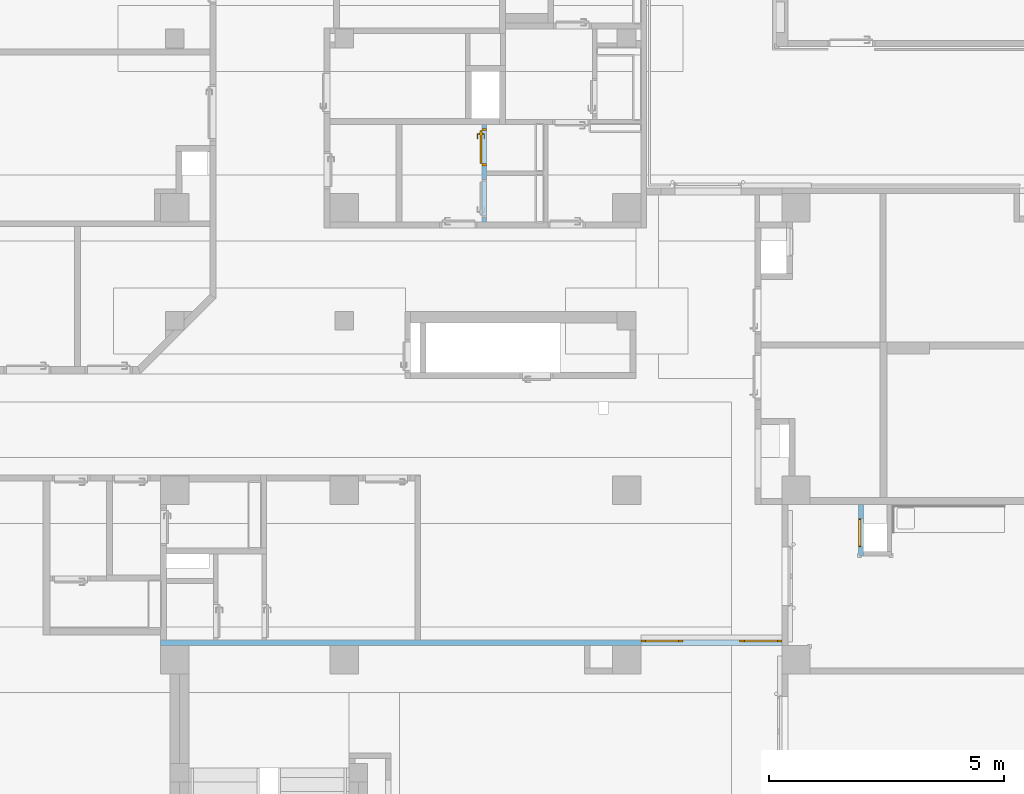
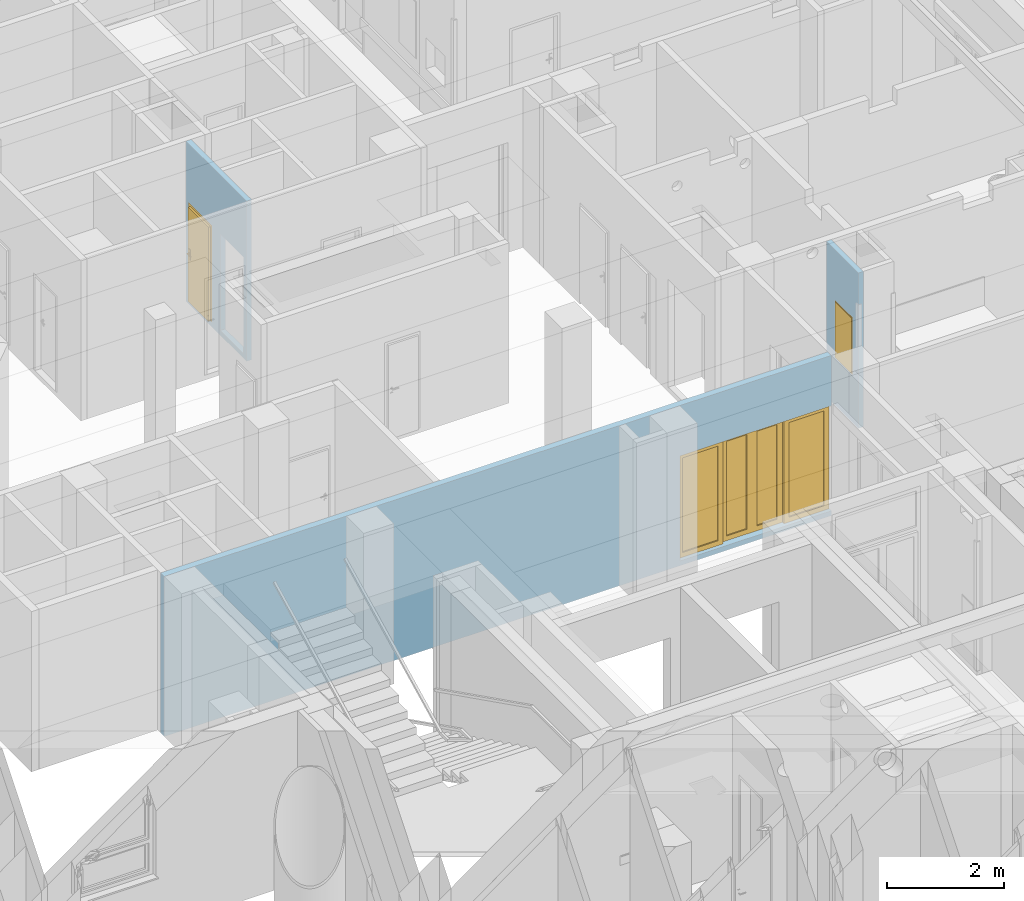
# One storey, part 83 of 140: 2 doors, 1 window, 4 openings, plus 3 elements that do not belong to this part.
"""IFC4 building model written with IfcOpenShell, lengths in metres."""

import ifcopenshell
import ifcopenshell.guid

model = None  # the IFC model being written
_history = None  # IfcOwnerHistory: only IFC2X3 demands one
_inside = {}  # id of a spatial element -> (the spatial element, [elements in it])
_under = {}  # id of a project, library or spatial element -> (it, [spatial elements below it])
_declared = {}  # id of a project -> (the project, [libraries it declares])
_typed = {}  # id of a type object -> (the type object, [elements of that type])
_made_of = {}  # id of a material, layer set ... -> (it, [elements and type objects made of it])


def new_model(schema):
    """Start an empty IFC model of exactly this schema.

    Asked for "IFC4X3", IfcOpenShell would pick the latest addendum, in which some entities
    have other attributes; the version numbers below select the first issue.
    IFC2X3 requires an IfcOwnerHistory on every rooted entity: one is made here for all.
    """
    global model, _history
    if schema == "IFC4X3":
        model = ifcopenshell.file(schema_version=(4, 3, 0, 0))
    else:
        model = ifcopenshell.file(schema=schema)
    _inside.clear()
    _under.clear()
    _declared.clear()
    _typed.clear()
    _made_of.clear()
    _history = None
    if model.schema == "IFC2X3":
        org = make("IfcOrganization", Name="unknown")
        user = make(
            "IfcPersonAndOrganization",
            ThePerson=make("IfcPerson", FamilyName="unknown"),
            TheOrganization=org,
        )
        app = make(
            "IfcApplication",
            ApplicationDeveloper=org,
            Version="unknown",
            ApplicationFullName="unknown",
            ApplicationIdentifier="unknown",
        )
        _history = make(
            "IfcOwnerHistory",
            OwningUser=user,
            OwningApplication=app,
            ChangeAction="ADDED",
            CreationDate=0,
        )
    return model


def make(cls, **values):
    """One entity of the class cls with the attributes given. An attribute that is None is left unset."""
    return model.create_entity(
        cls, **{name: value for name, value in values.items() if value is not None}
    )


def entity(cls, *values):
    """Any entity or typed value of the class cls, its attributes in the order of the schema. None: left unset."""
    e = model.create_entity(cls)
    for i, value in enumerate(values):
        if value is not None:
            e[i] = value
    return e


def rooted(cls, **values):
    """An entity with a GlobalId (a new one), such as an element, a storey or a relation."""
    return make(cls, GlobalId=ifcopenshell.guid.new(), OwnerHistory=_history, **values)


def si_unit(unit_type, name, prefix=None):
    """IfcSIUnit, for example si_unit("LENGTHUNIT", "METRE", prefix="MILLI")."""
    return make("IfcSIUnit", UnitType=unit_type, Prefix=prefix, Name=name)


def converted_unit(unit_type, name, factor, base, dimensions=None, offset=None):
    """IfcConversionBasedUnit, such as the inch: factor (a typed value) times the base unit."""
    return make(
        "IfcConversionBasedUnit"
        if offset is None
        else "IfcConversionBasedUnitWithOffset",
        ConversionOffset=offset,
        Dimensions=None
        if dimensions is None
        else entity("IfcDimensionalExponents", *dimensions),
        UnitType=unit_type,
        Name=name,
        ConversionFactor=make(
            "IfcMeasureWithUnit", ValueComponent=factor, UnitComponent=base
        ),
    )


def derived_unit(unit_type, elements):
    """IfcDerivedUnit: a product of units, each with its exponent."""
    return make(
        "IfcDerivedUnit",
        Elements=[
            make("IfcDerivedUnitElement", Unit=unit, Exponent=power)
            for unit, power in elements
        ],
        UnitType=unit_type,
    )


def assignment(units):
    """IfcUnitAssignment: the units of a project."""
    return None if units is None else make("IfcUnitAssignment", Units=units)


def point(xyz):
    """IfcCartesianPoint."""
    return None if xyz is None else make("IfcCartesianPoint", Coordinates=xyz)


def direction(xyz):
    """IfcDirection."""
    return None if xyz is None else make("IfcDirection", DirectionRatios=xyz)


def frame(location, z_axis=None, x_axis=None):
    """IfcAxis2Placement3D, a coordinate frame: its origin and axes. An axis left out is left unset."""
    return make(
        "IfcAxis2Placement3D",
        Location=point(location),
        Axis=direction(z_axis),
        RefDirection=direction(x_axis),
    )


def frame_2d(location, x_axis=None):
    """IfcAxis2Placement2D, a coordinate frame in the plane: its origin and x axis."""
    return make(
        "IfcAxis2Placement2D", Location=point(location), RefDirection=direction(x_axis)
    )


def origin():
    """The frame at (0, 0, 0) with its axes left unset."""
    return frame((0.0, 0.0, 0.0))


def origin_with_axes():
    """The frame at (0, 0, 0) with the z axis (0, 0, 1) and the x axis (1, 0, 0) written out."""
    return frame((0.0, 0.0, 0.0), z_axis=(0.0, 0.0, 1.0), x_axis=(1.0, 0.0, 0.0))


def place(relative_to, where):
    """IfcLocalPlacement: puts the frame where relative to a parent placement (None: the world)."""
    return make(
        "IfcLocalPlacement", PlacementRelTo=relative_to, RelativePlacement=where
    )


def context(
    kind, dimensions, precision=None, world=None, true_north=None, identifier=None
):
    """IfcGeometricRepresentationContext, for example the 3D "Model" context."""
    return make(
        "IfcGeometricRepresentationContext",
        ContextIdentifier=identifier,
        ContextType=kind,
        CoordinateSpaceDimension=dimensions,
        Precision=precision,
        WorldCoordinateSystem=world,
        TrueNorth=true_north,
    )


def subcontext(parent, identifier, kind, view, scale=None):
    """IfcGeometricRepresentationSubContext, for example "Body" below "Model"."""
    return make(
        "IfcGeometricRepresentationSubContext",
        ContextIdentifier=identifier,
        ContextType=kind,
        ParentContext=parent,
        TargetScale=scale,
        TargetView=view,
    )


def project(units=None, contexts=None):
    """IfcProject with its units and contexts."""
    return rooted(
        "IfcProject",
        Name="project",
        RepresentationContexts=contexts,
        UnitsInContext=assignment(units),
    )


def spatial(cls, under=None, at=None, **own):
    """A site, building, storey or space (cls), placed at a placement, below another one or the project."""
    s = rooted(cls, ObjectPlacement=at, **own)
    if under is not None:
        _under.setdefault(under.id(), (under, []))[1].append(s)
    return s


def polyline(points):
    """IfcPolyline through the points."""
    return make("IfcPolyline", Points=[point(p) for p in points])


def profile(cls, at=None, kind="AREA", **sizes):
    """A parametric profile (cls). Its sizes go by their IFC names, for example OverallWidth=200.0."""
    return make(cls, ProfileType=kind, Position=at, **sizes)


def rectangle(**sizes):
    """IfcRectangleProfileDef."""
    return profile("IfcRectangleProfileDef", **sizes)


def outline(outer, holes=None, kind="AREA"):
    """IfcArbitraryClosedProfileDef: a profile drawn as a closed curve; with holes, ...WithVoids."""
    if holes is None:
        return make("IfcArbitraryClosedProfileDef", ProfileType=kind, OuterCurve=outer)
    return make(
        "IfcArbitraryProfileDefWithVoids",
        ProfileType=kind,
        OuterCurve=outer,
        InnerCurves=holes,
    )


def extrude(swept, where, along, depth):
    """IfcExtrudedAreaSolid: the profile swept, set in the frame where, extruded along a direction by depth."""
    return make(
        "IfcExtrudedAreaSolid",
        SweptArea=swept,
        Position=where,
        ExtrudedDirection=direction(along),
        Depth=depth,
    )


def faces_of(points, faces, orient=None, outer=None):
    """IfcFace entities. A face is a list of loops; a loop is a list of indices into points, from 0.

    orient and outer hold one flag for each loop. By default every Orientation is true, the
    first loop of a face is its IfcFaceOuterBound and the others are IfcFaceBound.
    """
    made = []
    for i, loops in enumerate(faces):
        bounds = []
        for j, loop in enumerate(loops):
            is_outer = j == 0 if outer is None else outer[i][j]
            bounds.append(
                make(
                    "IfcFaceOuterBound" if is_outer else "IfcFaceBound",
                    Bound=make("IfcPolyLoop", Polygon=[points[k] for k in loop]),
                    Orientation=True if orient is None else orient[i][j],
                )
            )
        made.append(make("IfcFace", Bounds=bounds))
    return made


def closed_shell(faces, orient=None, outer=None):
    """The faces of one IfcClosedShell. faceted_brep and surface_model build it on their shared points."""
    return ("IfcClosedShell", faces, orient, outer)


def open_shell(faces, orient=None, outer=None):
    """The faces of one IfcOpenShell. surface_model builds it on its shared points."""
    return ("IfcOpenShell", faces, orient, outer)


def faceted_brep(points, faces, orient=None, outer=None, voids=None):
    """IfcFacetedBrep: a solid bounded by flat faces; with voids (closed shells), ...WithVoids."""
    shared = [point(p) for p in points]
    hull = make("IfcClosedShell", CfsFaces=faces_of(shared, faces, orient, outer))
    if voids is None:
        return make("IfcFacetedBrep", Outer=hull)
    return make(
        "IfcFacetedBrepWithVoids",
        Outer=hull,
        Voids=[
            make(cls, CfsFaces=faces_of(shared, fs, o, b)) for cls, fs, o, b in voids
        ],
    )


def surface_model(cls, points, shells):
    """IfcFaceBasedSurfaceModel or IfcShellBasedSurfaceModel (cls): surfaces that need not close."""
    shared = [point(p) for p in points]
    made = [make(c, CfsFaces=faces_of(shared, fs, o, b)) for c, fs, o, b in shells]
    if cls == "IfcFaceBasedSurfaceModel":
        return make(cls, FbsmFaces=made)
    return make(cls, SbsmBoundary=made)


def shape(context_of_items, identifier, shape_type, items):
    """IfcShapeRepresentation: the items that make up one representation, for example the "Body"."""
    return make(
        "IfcShapeRepresentation",
        ContextOfItems=context_of_items,
        RepresentationIdentifier=identifier,
        RepresentationType=shape_type,
        Items=items,
    )


def source(mapping_origin, context_of_items, identifier, shape_type, items):
    """IfcRepresentationMap: a shape defined once, which mapped items show again and again."""
    return make(
        "IfcRepresentationMap",
        MappingOrigin=mapping_origin,
        MappedRepresentation=shape(context_of_items, identifier, shape_type, items),
    )


def transform(
    local_origin,
    x_axis=None,
    y_axis=None,
    z_axis=None,
    scale=None,
    scale2=None,
    scale3=None,
    uniform=True,
):
    """IfcCartesianTransformationOperator3D, or its non-uniform kind. x_axis, y_axis, z_axis: its Axis1, 2, 3."""
    if uniform:
        return make(
            "IfcCartesianTransformationOperator3D",
            Axis1=direction(x_axis),
            Axis2=direction(y_axis),
            LocalOrigin=point(local_origin),
            Scale=scale,
            Axis3=direction(z_axis),
        )
    return make(
        "IfcCartesianTransformationOperator3DnonUniform",
        Axis1=direction(x_axis),
        Axis2=direction(y_axis),
        LocalOrigin=point(local_origin),
        Scale=scale,
        Axis3=direction(z_axis),
        Scale2=scale2,
        Scale3=scale3,
    )


def mapped(mapping_source, mapping_target):
    """IfcMappedItem: shows the shape of a source again, moved by a transform."""
    return make(
        "IfcMappedItem", MappingSource=mapping_source, MappingTarget=mapping_target
    )


def material(Name=None, Category=None):
    """IfcMaterial."""
    return make("IfcMaterial", Name=Name, Category=Category)


def layer(
    of_material, thickness, ventilated=None, Name=None, Category=None, Priority=None
):
    """IfcMaterialLayer: one layer of a wall or slab, of a material (None: an air gap)."""
    return make(
        "IfcMaterialLayer",
        Material=of_material,
        LayerThickness=thickness,
        IsVentilated=ventilated,
        Name=Name,
        Category=Category,
        Priority=Priority,
    )


def layer_set(layers, Name=None):
    """IfcMaterialLayerSet."""
    return make("IfcMaterialLayerSet", MaterialLayers=layers, LayerSetName=Name)


def layer_usage(for_layer_set, set_direction, sense, offset, extent=None):
    """IfcMaterialLayerSetUsage: how a layer set lies in its element."""
    return make(
        "IfcMaterialLayerSetUsage",
        ForLayerSet=for_layer_set,
        LayerSetDirection=set_direction,
        DirectionSense=sense,
        OffsetFromReferenceLine=offset,
        ReferenceExtent=extent,
    )


def made_of(thing, what):
    """Note that an element or type object is made of a material, layer set ...; save() writes the relation."""
    if what is not None:
        _made_of.setdefault(what.id(), (what, []))[1].append(thing)
    return thing


def type_object(cls, material=None, **own):
    """A type object (cls), such as IfcWallType, which elements share."""
    return made_of(rooted(cls, **own), material)


def element(
    cls,
    number,
    at=None,
    inside=None,
    cuts=None,
    type_object=None,
    material=None,
    context=None,
    identifier="Body",
    shape_type=None,
    held_by="IfcProductDefinitionShape",
    body=None,
    shapes=None,
    **own,
):
    """One element of the class cls, such as IfcWall. Its Tag is "e" and its number.

    at: its placement. inside: the storey or other place that contains it. cuts: it is an
    opening in that element (IfcRelVoidsElement). A single representation is given by context,
    identifier, shape_type and body (its items); several are given by shapes. held_by: the class
    of the entity that holds the representations. save() writes the other relations.
    """
    e = rooted(cls, Tag="e%d" % number, ObjectPlacement=at, **own)
    if body is not None:
        shapes = [shape(context, identifier, shape_type, body)]
    if shapes is not None:
        e.Representation = make(held_by, Representations=shapes)
    if inside is not None:
        _inside.setdefault(inside.id(), (inside, []))[1].append(e)
    if cuts is not None:
        rooted(
            "IfcRelVoidsElement", RelatingBuildingElement=cuts, RelatedOpeningElement=e
        )
    if type_object is not None:
        _typed.setdefault(type_object.id(), (type_object, []))[1].append(e)
    return made_of(e, material)


def fill(opening, filler):
    """IfcRelFillsElement: the door or window that sits in an opening."""
    return rooted(
        "IfcRelFillsElement",
        RelatingOpeningElement=opening,
        RelatedBuildingElement=filler,
    )


def aggregate(whole, parts):
    """IfcRelAggregates: a whole, such as a stair, and the parts it consists of."""
    return rooted("IfcRelAggregates", RelatingObject=whole, RelatedObjects=parts)


def save(model, path):
    """Write the relations noted so far, then the file.

    IfcRelAggregates (storeys below a building ...), IfcRelContainedInSpatialStructure (elements
    in a storey), IfcRelDefinesByType, IfcRelAssociatesMaterial and IfcRelDeclares: one each for
    every whole, place, type object, material and project.
    """
    for whole, parts in _under.values():
        aggregate(whole, parts)
    for where, things in _inside.values():
        rooted(
            "IfcRelContainedInSpatialStructure",
            RelatedElements=things,
            RelatingStructure=where,
        )
    for kind, things in _typed.values():
        rooted("IfcRelDefinesByType", RelatedObjects=things, RelatingType=kind)
    for what, things in _made_of.values():
        rooted("IfcRelAssociatesMaterial", RelatedObjects=things, RelatingMaterial=what)
    for by, libraries in _declared.values():
        rooted("IfcRelDeclares", RelatingContext=by, RelatedDefinitions=libraries)
    model.write(path)


model = new_model("IFC4")

# Units and contexts
model_context = context("Model", 3, precision=1e-05, world=origin())
body_context = subcontext(model_context, "Body", "Model", "MODEL_VIEW")
ifc_project = project(units=[si_unit("LENGTHUNIT", "METRE"), si_unit("AREAUNIT", "SQUARE_METRE"), si_unit("VOLUMEUNIT", "CUBIC_METRE"), si_unit("MASSUNIT", "GRAM", prefix="KILO"), converted_unit("PLANEANGLEUNIT", "DEGREE", entity("IfcPlaneAngleMeasure", 0.0174532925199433), si_unit("PLANEANGLEUNIT", "RADIAN"), dimensions=[0, 0, 0, 0, 0, 0, 0]), derived_unit("THERMALTRANSMITTANCEUNIT", [(si_unit("POWERUNIT", "WATT"), 1), (si_unit("THERMODYNAMICTEMPERATUREUNIT", "KELVIN"), -1), (si_unit("LENGTHUNIT", "METRE"), -2)]), derived_unit("VOLUMETRICFLOWRATEUNIT", [(si_unit("LENGTHUNIT", "METRE"), 3), (converted_unit("TIMEUNIT", "hour", entity("IfcTimeMeasure", 3600.0), si_unit("TIMEUNIT", "SECOND"), dimensions=[0, 0, 1, 0, 0, 0, 0]), -1), (si_unit("LENGTHUNIT", "METRE"), -1)])], contexts=[model_context])

# Site, building, storey
site_placement = place(None, origin())
site = spatial("IfcSite", under=ifc_project, at=site_placement, Name="3. ASŘ", CompositionType="ELEMENT")
building_placement = place(site_placement, origin())
building = spatial("IfcBuilding", under=site, at=building_placement, Name="Pavilon C", CompositionType="ELEMENT")
storey_placement = place(building_placement, origin())
storey = spatial("IfcBuildingStorey", under=building, at=storey_placement, Name="Půdorys 1.NP", CompositionType="ELEMENT", Elevation=0.0)

# Wall, opening, door
ifc_material_1 = material(Name="ZDIVO Z CDm")
ifc_layer_1 = layer(ifc_material_1, 0.125)
ifc_layer_set_1 = layer_set([ifc_layer_1])
ifc_layer_usage_1 = layer_usage(ifc_layer_set_1, "AXIS2", "POSITIVE", 0.0)
wall_1_placement = place(storey_placement, frame((30.45, 3.9, -0.1)))
wall_1 = element("IfcWall", 1, at=wall_1_placement, inside=storey, material=ifc_layer_usage_1, Name="ZDIVO Z CDm", context=body_context, shape_type="SweptSolid", body=[
    extrude(rectangle(XDim=13.2, YDim=0.125, at=frame_2d((6.6, 0.0625), x_axis=(1.0, 0.0))), origin_with_axes(), (0.0, 0.0, 1.0), 3.35),
])
opening_1_placement = place(wall_1_placement, frame((13.2, 0.125, 0.1), z_axis=(0.0, -1.0, 0.0), x_axis=(0.0, 0.0, 1.0)))
opening_1 = element("IfcOpeningElement", 2, at=opening_1_placement, cuts=wall_1, Name="Dveřní otvor", ObjectType="Opening", context=body_context, shape_type="SweptSolid", body=[
    extrude(outline(polyline([(0.0, 3.0), (2.2, 3.0), (2.2, 0.0), (0.0, 0.0), (0.0, 3.0)])), origin_with_axes(), (0.0, 0.0, 1.0), 0.125),
])
door_type_1 = type_object("IfcDoorType", Name="D401", OperationType="NOTDEFINED", ParameterTakesPrecedence=False, PredefinedType="DOOR")
shared_shape_1 = source(origin_with_axes(), body_context, "Body", "SurfaceModel", [
    surface_model("IfcShellBasedSurfaceModel", [(0.0, 0.0500000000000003, 2.2), (0.0, 0.0500000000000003, 2.18), (3.0, 0.0500000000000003, 2.18), (3.0, 0.0500000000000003, 2.2), (0.0, 2.70006239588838e-16, 2.18), (0.0, 2.70006239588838e-16, 2.2), (3.0, 2.70006239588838e-16, 2.2), (3.0, 2.70006239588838e-16, 2.18)], [closed_shell([[[0, 1, 2, 3]], [[4, 5, 6, 7]], [[1, 0, 5, 4]], [[2, 1, 4, 7]], [[3, 2, 7, 6]], [[0, 3, 6, 5]]], orient=[[False], [False], [False], [False], [False], [False]])]),
    surface_model("IfcShellBasedSurfaceModel", [(0.0, 0.0500000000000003, 2.18), (0.0, 0.05, 1.11492377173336e-17), (0.1, 0.05, 1.11492377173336e-17), (0.1, 0.0500000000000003, 2.18), (0.0, 0.0, 1.72724717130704e-17), (0.0, 2.70006239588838e-16, 2.18), (0.1, 2.70006239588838e-16, 2.18), (0.1, 0.0, 1.72724717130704e-17)], [closed_shell([[[0, 1, 2, 3]], [[4, 5, 6, 7]], [[1, 0, 5, 4]], [[2, 1, 4, 7]], [[3, 2, 7, 6]], [[0, 3, 6, 5]]], orient=[[False], [False], [False], [False], [False], [False]])]),
    surface_model("IfcShellBasedSurfaceModel", [(0.799, 0.0500000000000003, 2.18), (0.799, 0.05, 1.11492377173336e-17), (0.899, 0.05, 1.11492377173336e-17), (0.899, 0.0500000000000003, 2.18), (0.799, 0.0, 1.72724717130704e-17), (0.799, 2.70006239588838e-16, 2.18), (0.899, 2.70006239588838e-16, 2.18), (0.899, 0.0, 1.72724717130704e-17)], [closed_shell([[[0, 1, 2, 3]], [[4, 5, 6, 7]], [[1, 0, 5, 4]], [[2, 1, 4, 7]], [[3, 2, 7, 6]], [[0, 3, 6, 5]]], orient=[[False], [False], [False], [False], [False], [False]])]),
    surface_model("IfcShellBasedSurfaceModel", [(0.1, 0.05, 0.1), (0.1, 0.05, 1.11492377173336e-17), (0.799, 0.05, 1.11492377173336e-17), (0.799, 0.05, 0.1), (0.1, 0.0, 1.72724717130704e-17), (0.1, 1.4210854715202e-17, 0.1), (0.799, 1.4210854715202e-17, 0.1), (0.799, 0.0, 1.72724717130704e-17)], [closed_shell([[[0, 1, 2, 3]], [[4, 5, 6, 7]], [[1, 0, 5, 4]], [[2, 1, 4, 7]], [[3, 2, 7, 6]], [[0, 3, 6, 5]]], orient=[[False], [False], [False], [False], [False], [False]])]),
    surface_model("IfcShellBasedSurfaceModel", [(0.1, 0.0500000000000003, 2.18), (0.1, 0.0500000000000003, 2.08), (0.799, 0.0500000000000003, 2.08), (0.799, 0.0500000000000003, 2.18), (0.1, 2.55795384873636e-16, 2.08), (0.1, 2.70006239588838e-16, 2.18), (0.799, 2.70006239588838e-16, 2.18), (0.799, 2.55795384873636e-16, 2.08)], [closed_shell([[[0, 1, 2, 3]], [[4, 5, 6, 7]], [[1, 0, 5, 4]], [[2, 1, 4, 7]], [[3, 2, 7, 6]], [[0, 3, 6, 5]]], orient=[[False], [False], [False], [False], [False], [False]])]),
    surface_model("IfcShellBasedSurfaceModel", [(2.101, 0.0500000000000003, 2.18), (2.101, 0.05, 1.11492377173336e-17), (2.201, 0.05, 1.11492377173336e-17), (2.201, 0.0500000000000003, 2.18), (2.101, 0.0, 1.72724717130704e-17), (2.101, 2.70006239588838e-16, 2.18), (2.201, 2.70006239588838e-16, 2.18), (2.201, 0.0, 1.72724717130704e-17)], [closed_shell([[[0, 1, 2, 3]], [[4, 5, 6, 7]], [[1, 0, 5, 4]], [[2, 1, 4, 7]], [[3, 2, 7, 6]], [[0, 3, 6, 5]]], orient=[[False], [False], [False], [False], [False], [False]])]),
    surface_model("IfcShellBasedSurfaceModel", [(2.9, 0.0500000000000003, 2.18), (2.9, 0.05, 1.11492377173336e-17), (3.0, 0.05, 1.11492377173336e-17), (3.0, 0.0500000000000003, 2.18), (2.9, 0.0, 1.72724717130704e-17), (2.9, 2.70006239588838e-16, 2.18), (3.0, 2.70006239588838e-16, 2.18), (3.0, 0.0, 1.72724717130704e-17)], [closed_shell([[[0, 1, 2, 3]], [[4, 5, 6, 7]], [[1, 0, 5, 4]], [[2, 1, 4, 7]], [[3, 2, 7, 6]], [[0, 3, 6, 5]]], orient=[[False], [False], [False], [False], [False], [False]])]),
    surface_model("IfcShellBasedSurfaceModel", [(2.201, 0.05, 0.1), (2.201, 0.05, 1.11492377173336e-17), (2.9, 0.05, 1.11492377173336e-17), (2.9, 0.05, 0.1), (2.201, 0.0, 1.72724717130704e-17), (2.201, 1.4210854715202e-17, 0.1), (2.9, 1.4210854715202e-17, 0.1), (2.9, 0.0, 1.72724717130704e-17)], [closed_shell([[[0, 1, 2, 3]], [[4, 5, 6, 7]], [[1, 0, 5, 4]], [[2, 1, 4, 7]], [[3, 2, 7, 6]], [[0, 3, 6, 5]]], orient=[[False], [False], [False], [False], [False], [False]])]),
    surface_model("IfcShellBasedSurfaceModel", [(2.201, 0.0500000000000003, 2.18), (2.201, 0.0500000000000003, 2.08), (2.9, 0.0500000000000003, 2.08), (2.9, 0.0500000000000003, 2.18), (2.201, 2.55795384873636e-16, 2.08), (2.201, 2.70006239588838e-16, 2.18), (2.9, 2.70006239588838e-16, 2.18), (2.9, 2.55795384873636e-16, 2.08)], [closed_shell([[[0, 1, 2, 3]], [[4, 5, 6, 7]], [[1, 0, 5, 4]], [[2, 1, 4, 7]], [[3, 2, 7, 6]], [[0, 3, 6, 5]]], orient=[[False], [False], [False], [False], [False], [False]])]),
    surface_model("IfcShellBasedSurfaceModel", [(0.9, 0.1, 2.18), (0.9, 0.1, 5.02600372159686e-18), (1.0, 0.1, 5.02600372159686e-18), (1.0, 0.1, 2.18), (0.9, 0.05, 1.11492377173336e-17), (0.9, 0.0500000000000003, 2.18), (1.0, 0.0500000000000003, 2.18), (1.0, 0.05, 1.11492377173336e-17)], [closed_shell([[[0, 1, 2, 3]], [[4, 5, 6, 7]], [[1, 0, 5, 4]], [[2, 1, 4, 7]], [[3, 2, 7, 6]], [[0, 3, 6, 5]]], orient=[[False], [False], [False], [False], [False], [False]])]),
    surface_model("IfcShellBasedSurfaceModel", [(1.3995, 0.1, 2.18), (1.3995, 0.1, 5.02600372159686e-18), (1.4995, 0.1, 5.02600372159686e-18), (1.4995, 0.1, 2.18), (1.3995, 0.05, 1.11492377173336e-17), (1.3995, 0.0500000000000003, 2.18), (1.4995, 0.0500000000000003, 2.18), (1.4995, 0.05, 1.11492377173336e-17)], [closed_shell([[[0, 1, 2, 3]], [[4, 5, 6, 7]], [[1, 0, 5, 4]], [[2, 1, 4, 7]], [[3, 2, 7, 6]], [[0, 3, 6, 5]]], orient=[[False], [False], [False], [False], [False], [False]])]),
    surface_model("IfcShellBasedSurfaceModel", [(1.0, 0.1, 0.1), (1.0, 0.1, 5.02600372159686e-18), (1.3995, 0.1, 5.02600372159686e-18), (1.3995, 0.1, 0.1), (1.0, 0.05, 1.11492377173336e-17), (1.0, 0.05, 0.1), (1.3995, 0.05, 0.1), (1.3995, 0.05, 1.11492377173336e-17)], [closed_shell([[[0, 1, 2, 3]], [[4, 5, 6, 7]], [[1, 0, 5, 4]], [[2, 1, 4, 7]], [[3, 2, 7, 6]], [[0, 3, 6, 5]]], orient=[[False], [False], [False], [False], [False], [False]])]),
    surface_model("IfcShellBasedSurfaceModel", [(1.0, 0.1, 2.18), (1.0, 0.1, 2.08), (1.3995, 0.1, 2.08), (1.3995, 0.1, 2.18), (1.0, 0.0500000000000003, 2.08), (1.0, 0.0500000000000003, 2.18), (1.3995, 0.0500000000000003, 2.18), (1.3995, 0.0500000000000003, 2.08)], [closed_shell([[[0, 1, 2, 3]], [[4, 5, 6, 7]], [[1, 0, 5, 4]], [[2, 1, 4, 7]], [[3, 2, 7, 6]], [[0, 3, 6, 5]]], orient=[[False], [False], [False], [False], [False], [False]])]),
    surface_model("IfcShellBasedSurfaceModel", [(1.5005, 0.1, 2.18), (1.5005, 0.1, 5.02600372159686e-18), (1.6005, 0.1, 5.02600372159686e-18), (1.6005, 0.1, 2.18), (1.5005, 0.05, 1.11492377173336e-17), (1.5005, 0.0500000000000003, 2.18), (1.6005, 0.0500000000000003, 2.18), (1.6005, 0.05, 1.11492377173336e-17)], [closed_shell([[[0, 1, 2, 3]], [[4, 5, 6, 7]], [[1, 0, 5, 4]], [[2, 1, 4, 7]], [[3, 2, 7, 6]], [[0, 3, 6, 5]]], orient=[[False], [False], [False], [False], [False], [False]])]),
    surface_model("IfcShellBasedSurfaceModel", [(2.0, 0.1, 2.18), (2.0, 0.1, 5.02600372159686e-18), (2.1, 0.1, 5.02600372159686e-18), (2.1, 0.1, 2.18), (2.0, 0.05, 1.11492377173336e-17), (2.0, 0.0500000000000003, 2.18), (2.1, 0.0500000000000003, 2.18), (2.1, 0.05, 1.11492377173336e-17)], [closed_shell([[[0, 1, 2, 3]], [[4, 5, 6, 7]], [[1, 0, 5, 4]], [[2, 1, 4, 7]], [[3, 2, 7, 6]], [[0, 3, 6, 5]]], orient=[[False], [False], [False], [False], [False], [False]])]),
    surface_model("IfcShellBasedSurfaceModel", [(1.6005, 0.1, 0.1), (1.6005, 0.1, 5.02600372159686e-18), (2.0, 0.1, 5.02600372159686e-18), (2.0, 0.1, 0.1), (1.6005, 0.05, 1.11492377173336e-17), (1.6005, 0.05, 0.1), (2.0, 0.05, 0.1), (2.0, 0.05, 1.11492377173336e-17)], [closed_shell([[[0, 1, 2, 3]], [[4, 5, 6, 7]], [[1, 0, 5, 4]], [[2, 1, 4, 7]], [[3, 2, 7, 6]], [[0, 3, 6, 5]]], orient=[[False], [False], [False], [False], [False], [False]])]),
    surface_model("IfcShellBasedSurfaceModel", [(1.6005, 0.1, 2.18), (1.6005, 0.1, 2.08), (2.0, 0.1, 2.08), (2.0, 0.1, 2.18), (1.6005, 0.0500000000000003, 2.08), (1.6005, 0.0500000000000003, 2.18), (2.0, 0.0500000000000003, 2.18), (2.0, 0.0500000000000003, 2.08)], [closed_shell([[[0, 1, 2, 3]], [[4, 5, 6, 7]], [[1, 0, 5, 4]], [[2, 1, 4, 7]], [[3, 2, 7, 6]], [[0, 3, 6, 5]]], orient=[[False], [False], [False], [False], [False], [False]])]),
    surface_model("IfcShellBasedSurfaceModel", [(1.0, 0.075, 0.1), (1.3995, 0.075, 0.1), (1.3995, 0.0750000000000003, 2.08), (1.0, 0.0750000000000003, 2.08)], [open_shell([[[0, 1, 2, 3]]], orient=[[False]])]),
    surface_model("IfcShellBasedSurfaceModel", [(0.1, 0.025, 0.1), (0.799, 0.025, 0.1), (0.799, 0.0250000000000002, 2.08), (0.1, 0.0250000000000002, 2.08)], [open_shell([[[0, 1, 2, 3]]], orient=[[False]])]),
    surface_model("IfcShellBasedSurfaceModel", [(2.201, 0.025, 0.1), (2.9, 0.025, 0.1), (2.9, 0.0250000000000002, 2.08), (2.201, 0.0250000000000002, 2.08)], [open_shell([[[0, 1, 2, 3]]], orient=[[False]])]),
    surface_model("IfcShellBasedSurfaceModel", [(1.6005, 0.075, 0.1), (2.0, 0.075, 0.1), (2.0, 0.0750000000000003, 2.08), (1.6005, 0.0750000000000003, 2.08)], [open_shell([[[0, 1, 2, 3]]], orient=[[False]])]),
])
door_1_placement = place(opening_1_placement, frame((0.0, 0.0, 0.0500000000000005), z_axis=(1.0, 0.0, 0.0), x_axis=(0.0, 1.0, -2.44929359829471e-16)))
door_1 = element("IfcDoor", 3, at=door_1_placement, inside=storey, type_object=door_type_1, Name="D401", OverallHeight=2.2, OverallWidth=3.0, context=body_context, shape_type="MappedRepresentation", body=[
    mapped(shared_shape_1, transform((0.0, 0.0, 0.0), x_axis=(1.0, 0.0, 0.0), y_axis=(0.0, -1.0, 0.0), z_axis=(0.0, 0.0, 1.0), scale=1.0)),
])
fill(opening_1, door_1)

# Wall, openings, door
ifc_material_2 = material(Name="YTONG 100")
ifc_layer_2 = layer(ifc_material_2, 0.1)
ifc_layer_set_2 = layer_set([ifc_layer_2])
ifc_layer_usage_2 = layer_usage(ifc_layer_set_2, "AXIS2", "POSITIVE", 0.0)
wall_2_placement = place(storey_placement, frame((37.375, 12.9, -0.1), z_axis=(0.0, 0.0, 1.0), x_axis=(0.0, 1.0, 0.0)))
wall_2 = element("IfcWall", 4, at=wall_2_placement, inside=storey, material=ifc_layer_usage_2, Name="YTONG 100", context=body_context, shape_type="SweptSolid", body=[
    extrude(rectangle(XDim=2.075, YDim=0.1, at=frame_2d((1.0375, 0.05), x_axis=(1.0, 0.0))), origin_with_axes(), (0.0, 0.0, 1.0), 3.35),
])
opening_2_placement = place(wall_2_placement, frame((1.1875, 0.0, 0.1), z_axis=(0.0, 1.0, 0.0), x_axis=(0.0, 0.0, 1.0)))
opening_2 = element("IfcOpeningElement", 5, at=opening_2_placement, cuts=wall_2, Name="Dveřní otvor", ObjectType="Opening", context=body_context, shape_type="SweptSolid", body=[
    extrude(outline(polyline([(0.0, 0.8), (2.02, 0.8), (2.02, 0.0), (0.0, 0.0), (0.0, 0.8)])), origin_with_axes(), (0.0, 0.0, 1.0), 0.1),
])
opening_3_placement = place(wall_2_placement, frame((0.0999999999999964, 0.0, 0.1), z_axis=(0.0, 1.0, 0.0), x_axis=(0.0, 0.0, 1.0)))
element("IfcOpeningElement", 6, at=opening_3_placement, cuts=wall_2, Name="Dveřní otvor", ObjectType="Opening", context=body_context, shape_type="SweptSolid", body=[
    extrude(outline(polyline([(0.0, 0.8), (2.02, 0.8), (2.02, 0.0), (0.0, 0.0), (0.0, 0.8)])), origin_with_axes(), (0.0, 0.0, 1.0), 0.1),
])
door_type_2 = type_object("IfcDoorType", Name="D101", OperationType="NOTDEFINED", ParameterTakesPrecedence=False, PredefinedType="DOOR")
shared_shape_2 = source(origin_with_axes(), body_context, "Body", "SurfaceModel", [
    surface_model("IfcShellBasedSurfaceModel", [(0.0, 0.1, 2.02), (0.0, 0.1, -6.12323399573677e-18), (0.05, 0.1, -6.12323399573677e-18), (0.05, 0.1, 2.02), (0.0, 0.0, 6.12323399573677e-18), (0.0, 2.41584530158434e-16, 2.02), (0.05, 2.41584530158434e-16, 2.02), (0.05, 0.0, 6.12323399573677e-18)], [closed_shell([[[0, 1, 2, 3]], [[4, 5, 6, 7]], [[1, 0, 5, 4]], [[2, 1, 4, 7]], [[3, 2, 7, 6]], [[0, 3, 6, 5]]], orient=[[False], [False], [False], [False], [False], [False]])]),
    surface_model("IfcShellBasedSurfaceModel", [(0.75, 0.1, 2.02), (0.75, 0.1, -6.12323399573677e-18), (0.8, 0.1, -6.12323399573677e-18), (0.8, 0.1, 2.02), (0.75, 0.0, 6.12323399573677e-18), (0.75, 2.41584530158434e-16, 2.02), (0.8, 2.41584530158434e-16, 2.02), (0.8, 0.0, 6.12323399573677e-18)], [closed_shell([[[0, 1, 2, 3]], [[4, 5, 6, 7]], [[1, 0, 5, 4]], [[2, 1, 4, 7]], [[3, 2, 7, 6]], [[0, 3, 6, 5]]], orient=[[False], [False], [False], [False], [False], [False]])]),
    surface_model("IfcShellBasedSurfaceModel", [(0.05, 0.1, 2.02), (0.05, 0.1, 1.97), (0.75, 0.1, 1.97), (0.75, 0.1, 2.02), (0.05, 2.41584530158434e-16, 1.97), (0.05, 2.41584530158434e-16, 2.02), (0.75, 2.41584530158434e-16, 2.02), (0.75, 2.41584530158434e-16, 1.97)], [closed_shell([[[0, 1, 2, 3]], [[4, 5, 6, 7]], [[1, 0, 5, 4]], [[2, 1, 4, 7]], [[3, 2, 7, 6]], [[0, 3, 6, 5]]], orient=[[False], [False], [False], [False], [False], [False]])]),
    surface_model("IfcShellBasedSurfaceModel", [(0.05, 0.14, 1.97), (0.05, 0.14, -1.10218211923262e-17), (0.75, 0.14, -1.10218211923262e-17), (0.75, 0.14, 1.97), (0.05, 0.1, -6.12323399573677e-18), (0.05, 0.1, 1.97), (0.75, 0.1, 1.97), (0.75, 0.1, -6.12323399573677e-18)], [closed_shell([[[0, 1, 2, 3]], [[4, 5, 6, 7]], [[1, 0, 5, 4]], [[2, 1, 4, 7]], [[3, 2, 7, 6]], [[0, 3, 6, 5]]], orient=[[False], [False], [False], [False], [False], [False]])]),
    surface_model("IfcShellBasedSurfaceModel", [(0.66, 0.1, 1.125), (0.66, 0.1, 0.91), (0.71, 0.1, 0.91), (0.71, 0.1, 1.125), (0.66, 0.0900000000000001, 0.91), (0.66, 0.0900000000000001, 1.125), (0.71, 0.0900000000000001, 1.125), (0.71, 0.0900000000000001, 0.91)], [closed_shell([[[0, 1, 2, 3]], [[4, 5, 6, 7]], [[1, 0, 5, 4]], [[2, 1, 4, 7]], [[3, 2, 7, 6]], [[0, 3, 6, 5]]], orient=[[False], [False], [False], [False], [False], [False]])]),
    surface_model("IfcShellBasedSurfaceModel", [(0.685, 0.0900000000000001, 1.06), (0.68, 0.0900000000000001, 1.05866025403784), (0.676339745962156, 0.0900000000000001, 1.055), (0.675, 0.0900000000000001, 1.05), (0.676339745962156, 0.0900000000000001, 1.045), (0.68, 0.0900000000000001, 1.04133974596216), (0.685, 0.0900000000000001, 1.04), (0.69, 0.0900000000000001, 1.04133974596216), (0.693660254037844, 0.0900000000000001, 1.045), (0.695, 0.0900000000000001, 1.05), (0.693660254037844, 0.0900000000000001, 1.055), (0.69, 0.0900000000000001, 1.05866025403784), (0.69, 0.0450000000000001, 1.05866025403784), (0.685, 0.0500000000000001, 1.06), (0.693660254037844, 0.0413397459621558, 1.055), (0.695, 0.0400000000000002, 1.05), (0.693660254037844, 0.0413397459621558, 1.045), (0.69, 0.0450000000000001, 1.04133974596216), (0.685, 0.0500000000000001, 1.04), (0.68, 0.0550000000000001, 1.04133974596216), (0.676339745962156, 0.0586602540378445, 1.045), (0.675, 0.0600000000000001, 1.05), (0.676339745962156, 0.0586602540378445, 1.055), (0.68, 0.0550000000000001, 1.05866025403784), (0.57, 0.0450000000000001, 1.05866025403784), (0.57, 0.0500000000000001, 1.06), (0.57, 0.0413397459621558, 1.055), (0.57, 0.0400000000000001, 1.05), (0.57, 0.0413397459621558, 1.045), (0.57, 0.0450000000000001, 1.04133974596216), (0.57, 0.0500000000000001, 1.04), (0.57, 0.0550000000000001, 1.04133974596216), (0.57, 0.0586602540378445, 1.045), (0.57, 0.0600000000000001, 1.05), (0.57, 0.0586602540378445, 1.055), (0.57, 0.0550000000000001, 1.05866025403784)], [open_shell([[[0, 1, 2, 3, 4, 5, 6, 7, 8, 9, 10, 11]], [[0, 11, 12, 13]], [[11, 10, 14, 12]], [[10, 9, 15, 14]], [[9, 8, 16, 15]], [[8, 7, 17, 16]], [[7, 6, 18, 17]], [[6, 5, 19, 18]], [[5, 4, 20, 19]], [[4, 3, 21, 20]], [[3, 2, 22, 21]], [[2, 1, 23, 22]], [[1, 0, 13, 23]], [[13, 12, 24, 25]], [[12, 14, 26, 24]], [[14, 15, 27, 26]], [[15, 16, 28, 27]], [[16, 17, 29, 28]], [[17, 18, 30, 29]], [[18, 19, 31, 30]], [[19, 20, 32, 31]], [[20, 21, 33, 32]], [[21, 22, 34, 33]], [[22, 23, 35, 34]], [[23, 13, 25, 35]]], orient=[[False], [False], [False], [False], [False], [False], [False], [False], [False], [False], [False], [False], [False], [False], [False], [False], [False], [False], [False], [False], [False], [False], [False], [False], [False]])]),
    surface_model("IfcShellBasedSurfaceModel", [(0.66, 0.14, 1.125), (0.71, 0.14, 1.125), (0.71, 0.14, 0.91), (0.66, 0.14, 0.91), (0.66, 0.15, 0.91), (0.71, 0.15, 0.91), (0.71, 0.15, 1.125), (0.66, 0.15, 1.125)], [closed_shell([[[0, 1, 2, 3]], [[4, 5, 6, 7]], [[3, 4, 7, 0]], [[2, 5, 4, 3]], [[1, 6, 5, 2]], [[0, 7, 6, 1]]], orient=[[False], [False], [False], [False], [False], [False]])]),
    surface_model("IfcShellBasedSurfaceModel", [(0.685, 0.15, 1.06), (0.69, 0.15, 1.05866025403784), (0.693660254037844, 0.15, 1.055), (0.695, 0.15, 1.05), (0.693660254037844, 0.15, 1.045), (0.69, 0.15, 1.04133974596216), (0.685, 0.15, 1.04), (0.68, 0.15, 1.04133974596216), (0.676339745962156, 0.15, 1.045), (0.675, 0.15, 1.05), (0.676339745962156, 0.15, 1.055), (0.68, 0.15, 1.05866025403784), (0.685, 0.19, 1.06), (0.69, 0.195, 1.05866025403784), (0.693660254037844, 0.198660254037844, 1.055), (0.695, 0.2, 1.05), (0.693660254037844, 0.198660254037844, 1.045), (0.69, 0.195, 1.04133974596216), (0.685, 0.19, 1.04), (0.68, 0.185, 1.04133974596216), (0.676339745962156, 0.181339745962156, 1.045), (0.675, 0.18, 1.05), (0.676339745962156, 0.181339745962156, 1.055), (0.68, 0.185, 1.05866025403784), (0.57, 0.19, 1.06), (0.57, 0.195, 1.05866025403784), (0.57, 0.198660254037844, 1.055), (0.57, 0.2, 1.05), (0.57, 0.198660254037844, 1.045), (0.57, 0.195, 1.04133974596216), (0.57, 0.19, 1.04), (0.57, 0.185, 1.04133974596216), (0.57, 0.181339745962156, 1.045), (0.57, 0.18, 1.05), (0.57, 0.181339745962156, 1.055), (0.57, 0.185, 1.05866025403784)], [open_shell([[[0, 1, 2, 3, 4, 5, 6, 7, 8, 9, 10, 11]], [[0, 12, 13, 1]], [[1, 13, 14, 2]], [[2, 14, 15, 3]], [[3, 15, 16, 4]], [[4, 16, 17, 5]], [[5, 17, 18, 6]], [[6, 18, 19, 7]], [[7, 19, 20, 8]], [[8, 20, 21, 9]], [[9, 21, 22, 10]], [[10, 22, 23, 11]], [[11, 23, 12, 0]], [[12, 24, 25, 13]], [[13, 25, 26, 14]], [[14, 26, 27, 15]], [[15, 27, 28, 16]], [[16, 28, 29, 17]], [[17, 29, 30, 18]], [[18, 30, 31, 19]], [[19, 31, 32, 20]], [[20, 32, 33, 21]], [[21, 33, 34, 22]], [[22, 34, 35, 23]], [[23, 35, 24, 12]]], orient=[[False], [False], [False], [False], [False], [False], [False], [False], [False], [False], [False], [False], [False], [False], [False], [False], [False], [False], [False], [False], [False], [False], [False], [False], [False]])]),
])
door_2_placement = place(opening_2_placement, frame((0.0, -3.63797880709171e-15, 1.45519152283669e-14), z_axis=(1.0, 0.0, 0.0), x_axis=(0.0, 1.0, -1.22464679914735e-16)))
door_2 = element("IfcDoor", 7, at=door_2_placement, inside=storey, type_object=door_type_2, Name="D101", OverallHeight=2.02, OverallWidth=0.8, context=body_context, shape_type="MappedRepresentation", body=[
    mapped(shared_shape_2, transform((0.0, 0.0, 0.0), x_axis=(1.0, 0.0, 0.0), y_axis=(0.0, 1.0, 0.0), z_axis=(0.0, 0.0, 1.0), scale=1.0)),
])
fill(opening_2, door_2)

# Wall, opening, window
ifc_material_3 = material(Name="SDK ŠACHTOVÁ STĚNA/SDK OPL. S PO")
ifc_layer_3 = layer(ifc_material_3, 0.1)
ifc_layer_set_3 = layer_set([ifc_layer_3])
ifc_layer_usage_3 = layer_usage(ifc_layer_set_3, "AXIS2", "POSITIVE", 0.0)
wall_3_placement = place(storey_placement, frame((45.38, 5.79999999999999, 0.0), z_axis=(0.0, 0.0, 1.0), x_axis=(0.0, 1.0, 0.0)))
wall_3 = element("IfcWall", 8, at=wall_3_placement, inside=storey, material=ifc_layer_usage_3, Name="SDK ŠACHTOVÁ STĚNA/SDK OPL. S PO", context=body_context, shape_type="SweptSolid", body=[
    extrude(rectangle(XDim=1.1, YDim=0.1, at=frame_2d((0.55, 0.05), x_axis=(1.0, 0.0))), origin_with_axes(), (0.0, 0.0, 1.0), 3.25),
])
opening_4_placement = place(wall_3_placement, frame((0.799999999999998, 0.1, 1.0), z_axis=(0.0, -1.0, 0.0), x_axis=(0.0, 0.0, 1.0)))
opening_4 = element("IfcOpeningElement", 9, at=opening_4_placement, cuts=wall_3, Name="Okenní otvor", ObjectType="Opening", context=body_context, shape_type="SweptSolid", body=[
    extrude(outline(polyline([(0.0, 0.6), (1.2, 0.6), (1.2, 0.0), (0.0, 0.0), (0.0, 0.6)])), origin_with_axes(), (0.0, 0.0, 1.0), 0.1),
])
shared_shape_3 = source(origin_with_axes(), body_context, "Body", "Brep", [
    faceted_brep([(0.0, 0.0600000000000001, 1.2), (0.0, 0.06, 4.91096680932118e-19), (0.02, 0.06, 4.91096680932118e-19), (0.02, 0.0600000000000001, 1.2), (0.0, 0.01, 6.61433067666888e-18), (0.0, 0.0100000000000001, 1.2), (0.02, 0.0100000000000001, 1.2), (0.02, 0.01, 6.61433067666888e-18)], [[[0, 1, 2, 3]], [[4, 5, 6, 7]], [[1, 0, 5, 4]], [[2, 1, 4, 7]], [[3, 2, 7, 6]], [[0, 3, 6, 5]]], orient=[[False], [False], [False], [False], [False], [False]]),
    faceted_brep([(0.58, 0.0600000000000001, 1.2), (0.58, 0.06, 4.91096680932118e-19), (0.6, 0.06, 4.91096680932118e-19), (0.6, 0.0600000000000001, 1.2), (0.58, 0.01, 6.61433067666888e-18), (0.58, 0.0100000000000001, 1.2), (0.6, 0.0100000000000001, 1.2), (0.6, 0.01, 6.61433067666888e-18)], [[[0, 1, 2, 3]], [[4, 5, 6, 7]], [[1, 0, 5, 4]], [[2, 1, 4, 7]], [[3, 2, 7, 6]], [[0, 3, 6, 5]]], orient=[[False], [False], [False], [False], [False], [False]]),
    faceted_brep([(0.02, 0.06, 0.02), (0.02, 0.06, 4.91096680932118e-19), (0.58, 0.06, 4.91096680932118e-19), (0.58, 0.06, 0.02), (0.02, 0.01, 6.61433067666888e-18), (0.02, 0.01, 0.02), (0.58, 0.01, 0.02), (0.58, 0.01, 6.61433067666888e-18)], [[[0, 1, 2, 3]], [[4, 5, 6, 7]], [[1, 0, 5, 4]], [[2, 1, 4, 7]], [[3, 2, 7, 6]], [[0, 3, 6, 5]]], orient=[[False], [False], [False], [False], [False], [False]]),
    faceted_brep([(0.02, 0.0600000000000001, 1.2), (0.02, 0.0600000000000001, 1.18), (0.58, 0.0600000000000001, 1.18), (0.58, 0.0600000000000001, 1.2), (0.02, 0.0100000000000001, 1.18), (0.02, 0.0100000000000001, 1.2), (0.58, 0.0100000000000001, 1.2), (0.58, 0.0100000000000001, 1.18)], [[[0, 1, 2, 3]], [[4, 5, 6, 7]], [[1, 0, 5, 4]], [[2, 1, 4, 7]], [[3, 2, 7, 6]], [[0, 3, 6, 5]]], orient=[[False], [False], [False], [False], [False], [False]]),
    faceted_brep([(0.02, 0.0100000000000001, 1.18), (0.02, 0.01, 0.02), (0.58, 0.01, 0.02), (0.58, 0.0100000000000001, 1.18), (0.02, 0.0, 0.02), (0.02, 1.4210854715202e-16, 1.18), (0.58, 1.4210854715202e-16, 1.18), (0.58, 0.0, 0.02)], [[[0, 1, 2, 3]], [[4, 5, 6, 7]], [[1, 0, 5, 4]], [[2, 1, 4, 7]], [[3, 2, 7, 6]], [[0, 3, 6, 5]]], orient=[[False], [False], [False], [False], [False], [False]]),
])
window_placement = place(opening_4_placement, frame((0.0, 1.81898940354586e-15, -0.0100000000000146), z_axis=(1.0, 0.0, 0.0), x_axis=(0.0, 1.0, 1.22464679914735e-16)))
window = element("IfcWindow", 10, at=window_placement, inside=storey, Name="I.Z6", OverallHeight=1.2, OverallWidth=0.6, PartitioningType="USERDEFINED", PredefinedType="WINDOW", context=body_context, shape_type="MappedRepresentation", body=[
    mapped(shared_shape_3, transform((0.0, 0.0, 0.0), x_axis=(1.0, 0.0, 0.0), y_axis=(0.0, 1.0, 0.0), z_axis=(0.0, 0.0, 1.0), scale=1.0)),
])
fill(opening_4, window)

save(model, "model.ifc")
